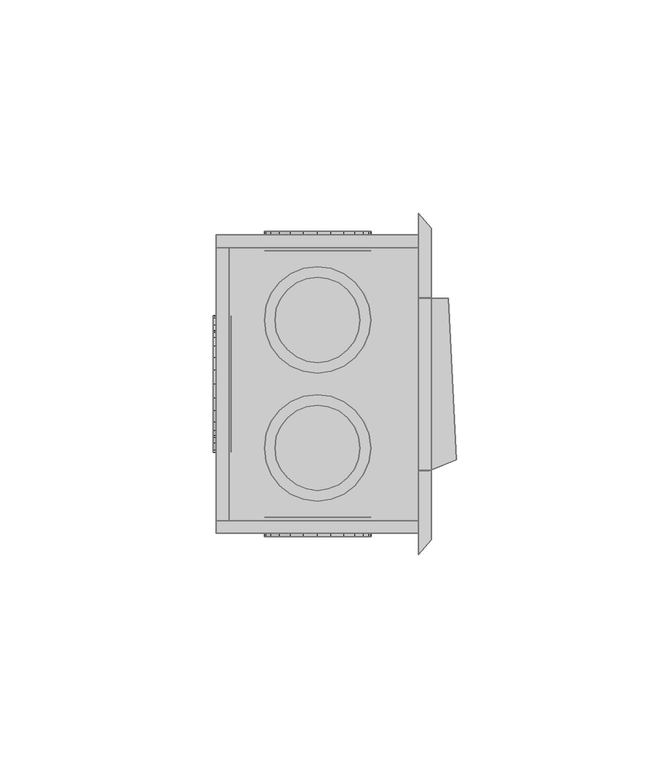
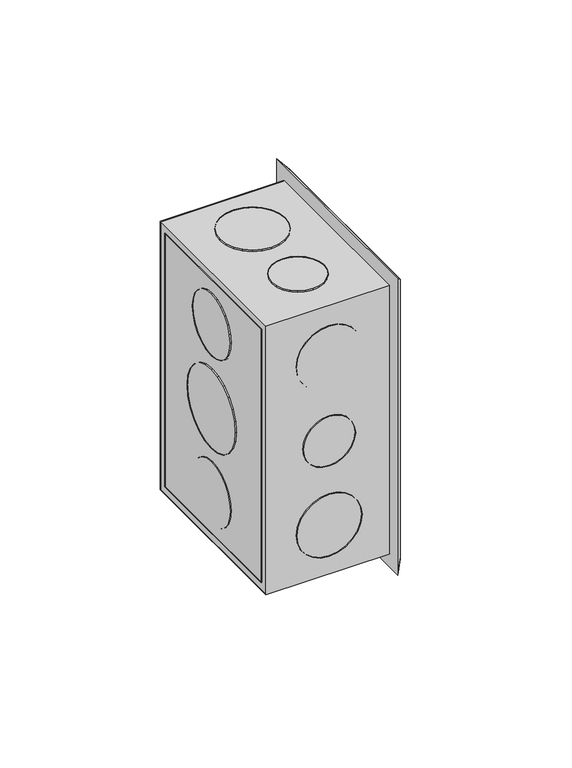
"""IFC4 building model written with IfcOpenShell, lengths in millimetres: proxy geometry,  210421 :  210421."""

from ifc_helpers import new_model, si_unit, origin, place, context, project, spatial, triangles, source, transform, mapped, element, save


def generic_models_ff952253(model_context):
    return source(origin(), model_context, "Body", "Tessellation", [
        triangles([(30653.4010437, 9867.0500519, 1254.3000378), (30653.4010437, 9864.050235, 1148.7000154), (30653.4010437, 9867.0500519, 1145.6999805), (30653.4010437, 9864.050235, 1251.2999302), (30653.4010437, 9797.0496735, 1254.3000378), (30653.4010437, 9800.0494904, 1251.2999302), (30653.4010437, 9797.0496735, 1145.6999805), (30653.4010437, 9800.0494904, 1148.7000154), (30605.899292, 9864.050235, 1251.2999302), (30605.899292, 9864.050235, 1148.7000154), (30605.899292, 9797.0496735, 1254.3000378), (30605.899292, 9797.0496735, 1145.6999805), (30605.899292, 9800.0494904, 1251.2999302), (30605.899292, 9867.0500519, 1145.6999805), (30605.899292, 9800.0494904, 1148.7000154), (30605.899292, 9867.0500519, 1254.3000378), (30608.8991089, 9864.050235, 1251.2999302), (30608.8991089, 9800.0494904, 1148.7000154), (30608.8991089, 9864.050235, 1148.7000154), (30608.8991089, 9800.0494904, 1251.2999302), (30609.3990784, 9845.950177, 1191.9999887), (30609.3990784, 9840.0505371, 1186.0999855), (30609.3990784, 9843.3503357, 1188.6999722), (30609.3990784, 9847.5500793, 1195.8999687), (30609.3990784, 9836.2496063, 1184.5000105), (30609.3990784, 9848.0500488, 1200.0000092), (30609.3990784, 9832.0498627, 1183.9999683), (30609.3990784, 9847.5500793, 1204.0999769), (30609.3990784, 9827.9501129, 1184.5000105), (30609.3990784, 9845.950177, 1208.0000296), (30609.3990784, 9824.050351, 1186.0999855), (30609.3990784, 9843.3503357, 1211.2999735), (30609.3990784, 9820.7505524, 1188.6999722), (30609.3990784, 9840.0505371, 1213.9000328), (30609.3990784, 9818.2495422, 1191.9999887), (30609.3990784, 9836.2496063, 1215.5000078), (30609.3990784, 9816.6496399, 1195.8999687), (30609.3990784, 9832.0498627, 1215.9999773), (30609.3990784, 9816.0496765, 1200.0000092), (30609.3990784, 9827.9501129, 1215.5000078), (30609.3990784, 9816.6496399, 1204.0999769), (30609.3990784, 9824.050351, 1213.9000328), (30609.3990784, 9818.2495422, 1208.0000296), (30609.3990784, 9820.7505524, 1211.2999735), (30605.1993347, 9827.9501129, 1184.5000105), (30605.1993347, 9832.0498627, 1183.9999683), (30605.1993347, 9836.2496063, 1184.5000105), (30605.1993347, 9840.0505371, 1186.0999855), (30605.1993347, 9843.3503357, 1188.6999722), (30605.1993347, 9845.950177, 1191.9999887), (30605.1993347, 9847.5500793, 1195.8999687), (30605.1993347, 9848.0500488, 1200.0000092), (30605.1993347, 9847.5500793, 1204.0999769), (30605.1993347, 9845.950177, 1208.0000296), (30605.1993347, 9843.3503357, 1211.2999735), (30605.1993347, 9840.0505371, 1213.9000328), (30605.1993347, 9836.2496063, 1215.5000078), (30605.1993347, 9832.0498627, 1215.9999773), (30605.1993347, 9827.9501129, 1215.5000078), (30605.1993347, 9824.050351, 1213.9000328), (30605.1993347, 9820.7505524, 1211.2999735), (30605.1993347, 9818.2495422, 1208.0000296), (30605.1993347, 9816.6496399, 1204.0999769), (30605.1993347, 9816.0496765, 1200.0000092), (30605.1993347, 9816.6496399, 1195.8999687), (30605.1993347, 9818.2495422, 1191.9999887), (30605.1993347, 9820.7505524, 1188.6999722), (30605.1993347, 9824.050351, 1186.0999855), (30609.3990784, 9842.9503601, 1227.8000565), (30609.3990784, 9838.3494781, 1223.2000465), (30609.3990784, 9840.9504822, 1225.2000698), (30609.3990784, 9844.1502869, 1230.8000187), (30609.3990784, 9835.3496613, 1221.8999805), (30609.3990784, 9844.5502625, 1233.9999687), (30609.3990784, 9832.0498627, 1221.500005), (30609.3990784, 9844.1502869, 1237.2000641), (30609.3990784, 9828.850058, 1221.8999805), (30609.3990784, 9842.9503601, 1240.3000202), (30609.3990784, 9825.8502411, 1223.2000465), (30609.3990784, 9840.9504822, 1242.800013), (30609.3990784, 9823.2503998, 1225.2000698), (30609.3990784, 9821.2505219, 1227.8000565), (30609.3990784, 9838.3494781, 1244.8000362), (30609.3990784, 9835.3496613, 1246.0999569), (30609.3990784, 9820.0494324, 1230.8000187), (30609.3990784, 9832.0498627, 1246.4999325), (30609.3990784, 9819.5494629, 1233.9999687), (30609.3990784, 9828.850058, 1246.0999569), (30609.3990784, 9820.0494324, 1237.2000641), (30609.3990784, 9821.2505219, 1240.3000202), (30609.3990784, 9825.8502411, 1244.8000362), (30609.3990784, 9823.2503998, 1242.800013), (30605.1993347, 9820.0494324, 1230.8000187), (30605.1993347, 9821.2505219, 1227.8000565), (30605.1993347, 9823.2503998, 1225.2000698), (30605.1993347, 9825.8502411, 1223.2000465), (30605.1993347, 9828.850058, 1221.8999805), (30605.1993347, 9832.0498627, 1221.500005), (30605.1993347, 9835.3496613, 1221.8999805), (30605.1993347, 9838.3494781, 1223.2000465), (30605.1993347, 9840.9504822, 1225.2000698), (30605.1993347, 9842.9503601, 1227.8000565), (30605.1993347, 9844.1502869, 1230.8000187), (30605.1993347, 9844.5502625, 1233.9999687), (30605.1993347, 9844.1502869, 1237.2000641), (30605.1993347, 9842.9503601, 1240.3000202), (30605.1993347, 9840.9504822, 1242.800013), (30605.1993347, 9838.3494781, 1244.8000362), (30605.1993347, 9835.3496613, 1246.0999569), (30605.1993347, 9832.0498627, 1246.4999325), (30605.1993347, 9828.850058, 1246.0999569), (30605.1993347, 9825.8502411, 1244.8000362), (30605.1993347, 9823.2503998, 1242.800013), (30605.1993347, 9821.2505219, 1240.3000202), (30605.1993347, 9820.0494324, 1237.2000641), (30605.1993347, 9819.5494629, 1233.9999687), (30605.1993347, 9838.3494781, 1155.1999821), (30605.1993347, 9842.9503601, 1159.6999981), (30605.1993347, 9840.9504822, 1157.2000053), (30605.1993347, 9835.3496613, 1153.8999887), (30605.1993347, 9844.1502869, 1162.8000269), (30605.1993347, 9832.0498627, 1153.5000132), (30605.1993347, 9844.5502625, 1165.9999769), (30605.1993347, 9828.850058, 1153.8999887), (30605.1993347, 9844.1502869, 1169.1999996), (30605.1993347, 9825.8502411, 1155.1999821), (30605.1993347, 9842.9503601, 1172.2000345), (30605.1993347, 9823.2503998, 1157.2000053), (30605.1993347, 9840.9504822, 1174.8000212), (30605.1993347, 9821.2505219, 1159.6999981), (30605.1993347, 9838.3494781, 1176.7999718), (30605.1993347, 9820.0494324, 1162.8000269), (30605.1993347, 9835.3496613, 1178.0999651), (30605.1993347, 9832.0498627, 1178.5000134), (30605.1993347, 9819.5494629, 1165.9999769), (30605.1993347, 9820.0494324, 1169.1999996), (30605.1993347, 9828.850058, 1178.0999651), (30605.1993347, 9821.2505219, 1172.2000345), (30605.1993347, 9825.8502411, 1176.7999718), (30605.1993347, 9823.2503998, 1174.8000212), (30609.3990784, 9835.3496613, 1178.0999651), (30609.3990784, 9832.0498627, 1178.5000134), (30609.3990784, 9838.3494781, 1176.7999718), (30609.3990784, 9840.9504822, 1174.8000212), (30609.3990784, 9842.9503601, 1172.2000345), (30609.3990784, 9844.1502869, 1169.1999996), (30609.3990784, 9844.5502625, 1165.9999769), (30609.3990784, 9844.1502869, 1162.8000269), (30609.3990784, 9842.9503601, 1159.6999981), (30609.3990784, 9840.9504822, 1157.2000053), (30609.3990784, 9838.3494781, 1155.1999821), (30609.3990784, 9835.3496613, 1153.8999887), (30609.3990784, 9832.0498627, 1153.5000132), (30609.3990784, 9828.850058, 1153.8999887), (30609.3990784, 9825.8502411, 1155.1999821), (30609.3990784, 9823.2503998, 1157.2000053), (30609.3990784, 9821.2505219, 1159.6999981), (30609.3990784, 9820.0494324, 1162.8000269), (30609.3990784, 9819.5494629, 1165.9999769), (30609.3990784, 9820.0494324, 1169.1999996), (30609.3990784, 9821.2505219, 1172.2000345), (30609.3990784, 9823.2503998, 1174.8000212), (30609.3990784, 9825.8502411, 1176.7999718), (30609.3990784, 9828.850058, 1178.0999651), (30624.70047, 9863.2502838, 1191.3000315), (30621.0006958, 9863.2502838, 1195.0000237), (30622.6005981, 9863.2502838, 1192.9000065), (30620.0007568, 9863.2502838, 1197.4000225), (30627.1003235, 9863.2502838, 1190.3000198), (30619.7007751, 9863.2502838, 1200.0000092), (30629.7001648, 9863.2502838, 1189.9999655), (30632.2000122, 9863.2502838, 1190.3000198), (30620.0007568, 9863.2502838, 1202.5999958), (30621.0006958, 9863.2502838, 1204.9999947), (30634.6998596, 9863.2502838, 1191.3000315), (30622.6005981, 9863.2502838, 1207.1000118), (30636.6997375, 9863.2502838, 1192.9000065), (30638.2996399, 9863.2502838, 1195.0000237), (30624.70047, 9863.2502838, 1208.6999868), (30639.2995789, 9863.2502838, 1197.4000225), (30627.1003235, 9863.2502838, 1209.6999985), (30639.6995544, 9863.2502838, 1200.0000092), (30629.7001648, 9863.2502838, 1209.9999802), (30639.2995789, 9863.2502838, 1202.5999958), (30632.2000122, 9863.2502838, 1209.6999985), (30634.6998596, 9863.2502838, 1208.6999868), (30638.2996399, 9863.2502838, 1204.9999947), (30636.6997375, 9863.2502838, 1207.1000118), (30629.7001648, 9867.8500031, 1189.9999655), (30627.1003235, 9867.8500031, 1190.3000198), (30632.2000122, 9867.8500031, 1190.3000198), (30634.6998596, 9867.8500031, 1191.3000315), (30636.6997375, 9867.8500031, 1192.9000065), (30638.2996399, 9867.8500031, 1195.0000237), (30639.2995789, 9867.8500031, 1197.4000225), (30639.6995544, 9867.8500031, 1200.0000092), (30639.2995789, 9867.8500031, 1202.5999958), (30638.2996399, 9867.8500031, 1204.9999947), (30636.6997375, 9867.8500031, 1207.1000118), (30634.6998596, 9867.8500031, 1208.6999868), (30632.2000122, 9867.8500031, 1209.6999985), (30629.7001648, 9867.8500031, 1209.9999802), (30627.1003235, 9867.8500031, 1209.6999985), (30624.70047, 9867.8500031, 1208.6999868), (30622.6005981, 9867.8500031, 1207.1000118), (30621.0006958, 9867.8500031, 1204.9999947), (30620.0007568, 9867.8500031, 1202.5999958), (30619.7007751, 9867.8500031, 1200.0000092), (30620.0007568, 9867.8500031, 1197.4000225), (30621.0006958, 9867.8500031, 1195.0000237), (30622.6005981, 9867.8500031, 1192.9000065), (30624.70047, 9867.8500031, 1191.3000315), (30623.4005493, 9863.2502838, 1223.2000465), (30618.8008301, 9863.2502838, 1227.8000565), (30620.800708, 9863.2502838, 1225.2000698), (30626.4003662, 9863.2502838, 1221.8999805), (30617.6009033, 9863.2502838, 1230.8000187), (30617.2009277, 9863.2502838, 1233.9999687), (30629.7001648, 9863.2502838, 1221.500005), (30632.8999695, 9863.2502838, 1221.8999805), (30617.6009033, 9863.2502838, 1237.2000641), (30618.8008301, 9863.2502838, 1240.3000202), (30635.8997864, 9863.2502838, 1223.2000465), (30638.4996277, 9863.2502838, 1225.2000698), (30620.800708, 9863.2502838, 1242.800013), (30640.4995056, 9863.2502838, 1227.8000565), (30623.4005493, 9863.2502838, 1244.8000362), (30641.6994324, 9863.2502838, 1230.8000187), (30626.4003662, 9863.2502838, 1246.0999569), (30642.1994019, 9863.2502838, 1233.9999687), (30629.7001648, 9863.2502838, 1246.4999325), (30641.6994324, 9863.2502838, 1237.2000641), (30632.8999695, 9863.2502838, 1246.0999569), (30640.4995056, 9863.2502838, 1240.3000202), (30635.8997864, 9863.2502838, 1244.8000362), (30638.4996277, 9863.2502838, 1242.800013), (30629.7001648, 9867.8500031, 1221.500005), (30626.4003662, 9867.8500031, 1221.8999805), (30632.8999695, 9867.8500031, 1221.8999805), (30635.8997864, 9867.8500031, 1223.2000465), (30638.4996277, 9867.8500031, 1225.2000698), (30640.4995056, 9867.8500031, 1227.8000565), (30641.6994324, 9867.8500031, 1230.8000187), (30642.1994019, 9867.8500031, 1233.9999687), (30641.6994324, 9867.8500031, 1237.2000641), (30640.4995056, 9867.8500031, 1240.3000202), (30638.4996277, 9867.8500031, 1242.800013), (30635.8997864, 9867.8500031, 1244.8000362), (30632.8999695, 9867.8500031, 1246.0999569), (30629.7001648, 9867.8500031, 1246.4999325), (30626.4003662, 9867.8500031, 1246.0999569), (30623.4005493, 9867.8500031, 1244.8000362), (30620.800708, 9867.8500031, 1242.800013), (30618.8008301, 9867.8500031, 1240.3000202), (30617.6009033, 9867.8500031, 1237.2000641), (30617.2009277, 9867.8500031, 1233.9999687), (30617.6009033, 9867.8500031, 1230.8000187), (30618.8008301, 9867.8500031, 1227.8000565), (30620.800708, 9867.8500031, 1225.2000698), (30623.4005493, 9867.8500031, 1223.2000465), (30618.8008301, 9867.8500031, 1159.6999981), (30623.4005493, 9867.8500031, 1155.1999821), (30620.800708, 9867.8500031, 1157.2000053), (30617.6009033, 9867.8500031, 1162.8000269), (30626.4003662, 9867.8500031, 1153.8999887), (30617.2009277, 9867.8500031, 1165.9999769), (30629.7001648, 9867.8500031, 1153.5000132), (30617.6009033, 9867.8500031, 1169.1999996), (30632.8999695, 9867.8500031, 1153.8999887), (30618.8008301, 9867.8500031, 1172.2000345), (30635.8997864, 9867.8500031, 1155.1999821), (30620.800708, 9867.8500031, 1174.8000212), (30638.4996277, 9867.8500031, 1157.2000053), (30623.4005493, 9867.8500031, 1176.7999718), (30640.4995056, 9867.8500031, 1159.6999981), (30626.4003662, 9867.8500031, 1178.0999651), (30641.6994324, 9867.8500031, 1162.8000269), (30629.7001648, 9867.8500031, 1178.5000134), (30642.1994019, 9867.8500031, 1165.9999769), (30632.8999695, 9867.8500031, 1178.0999651), (30641.6994324, 9867.8500031, 1169.1999996), (30635.8997864, 9867.8500031, 1176.7999718), (30640.4995056, 9867.8500031, 1172.2000345), (30638.4996277, 9867.8500031, 1174.8000212), (30626.4003662, 9863.2502838, 1178.0999651), (30629.7001648, 9863.2502838, 1178.5000134), (30632.8999695, 9863.2502838, 1178.0999651), (30635.8997864, 9863.2502838, 1176.7999718), (30638.4996277, 9863.2502838, 1174.8000212), (30640.4995056, 9863.2502838, 1172.2000345), (30641.6994324, 9863.2502838, 1169.1999996), (30642.1994019, 9863.2502838, 1165.9999769), (30641.6994324, 9863.2502838, 1162.8000269), (30640.4995056, 9863.2502838, 1159.6999981), (30638.4996277, 9863.2502838, 1157.2000053), (30635.8997864, 9863.2502838, 1155.1999821), (30632.8999695, 9863.2502838, 1153.8999887), (30629.7001648, 9863.2502838, 1153.5000132), (30626.4003662, 9863.2502838, 1153.8999887), (30623.4005493, 9863.2502838, 1155.1999821), (30620.800708, 9863.2502838, 1157.2000053), (30618.8008301, 9863.2502838, 1159.6999981), (30617.6009033, 9863.2502838, 1162.8000269), (30617.2009277, 9863.2502838, 1165.9999769), (30617.6009033, 9863.2502838, 1169.1999996), (30618.8008301, 9863.2502838, 1172.2000345), (30620.800708, 9863.2502838, 1174.8000212), (30623.4005493, 9863.2502838, 1176.7999718), (30621.0006958, 9800.8494415, 1195.0000237), (30624.70047, 9800.8494415, 1191.3000315), (30622.6005981, 9800.8494415, 1192.9000065), (30620.0007568, 9800.8494415, 1197.4000225), (30627.1003235, 9800.8494415, 1190.3000198), (30619.7007751, 9800.8494415, 1200.0000092), (30629.7001648, 9800.8494415, 1189.9999655), (30620.0007568, 9800.8494415, 1202.5999958), (30632.2000122, 9800.8494415, 1190.3000198), (30621.0006958, 9800.8494415, 1204.9999947), (30634.6998596, 9800.8494415, 1191.3000315), (30622.6005981, 9800.8494415, 1207.1000118), (30636.6997375, 9800.8494415, 1192.9000065), (30624.70047, 9800.8494415, 1208.6999868), (30638.2996399, 9800.8494415, 1195.0000237), (30627.1003235, 9800.8494415, 1209.6999985), (30639.2995789, 9800.8494415, 1197.4000225), (30639.6995544, 9800.8494415, 1200.0000092), (30629.7001648, 9800.8494415, 1209.9999802), (30632.2000122, 9800.8494415, 1209.6999985), (30639.2995789, 9800.8494415, 1202.5999958), (30634.6998596, 9800.8494415, 1208.6999868), (30638.2996399, 9800.8494415, 1204.9999947), (30636.6997375, 9800.8494415, 1207.1000118), (30627.1003235, 9796.2497223, 1209.6999985), (30629.7001648, 9796.2497223, 1209.9999802), (30632.2000122, 9796.2497223, 1209.6999985), (30634.6998596, 9796.2497223, 1208.6999868), (30636.6997375, 9796.2497223, 1207.1000118), (30638.2996399, 9796.2497223, 1204.9999947), (30639.2995789, 9796.2497223, 1202.5999958), (30639.6995544, 9796.2497223, 1200.0000092), (30639.2995789, 9796.2497223, 1197.4000225), (30638.2996399, 9796.2497223, 1195.0000237), (30636.6997375, 9796.2497223, 1192.9000065), (30634.6998596, 9796.2497223, 1191.3000315), (30632.2000122, 9796.2497223, 1190.3000198), (30629.7001648, 9796.2497223, 1189.9999655), (30627.1003235, 9796.2497223, 1190.3000198), (30624.70047, 9796.2497223, 1191.3000315), (30622.6005981, 9796.2497223, 1192.9000065), (30621.0006958, 9796.2497223, 1195.0000237), (30620.0007568, 9796.2497223, 1197.4000225), (30619.7007751, 9796.2497223, 1200.0000092), (30620.0007568, 9796.2497223, 1202.5999958), (30621.0006958, 9796.2497223, 1204.9999947), (30622.6005981, 9796.2497223, 1207.1000118), (30624.70047, 9796.2497223, 1208.6999868), (30618.8008301, 9800.8494415, 1159.6999981), (30623.4005493, 9800.8494415, 1155.1999821), (30620.800708, 9800.8494415, 1157.2000053), (30617.6009033, 9800.8494415, 1162.8000269), (30626.4003662, 9800.8494415, 1153.8999887), (30617.2009277, 9800.8494415, 1165.9999769), (30629.7001648, 9800.8494415, 1153.5000132), (30617.6009033, 9800.8494415, 1169.1999996), (30632.8999695, 9800.8494415, 1153.8999887), (30618.8008301, 9800.8494415, 1172.2000345), (30635.8997864, 9800.8494415, 1155.1999821), (30620.800708, 9800.8494415, 1174.8000212), (30638.4996277, 9800.8494415, 1157.2000053), (30623.4005493, 9800.8494415, 1176.7999718), (30640.4995056, 9800.8494415, 1159.6999981), (30626.4003662, 9800.8494415, 1178.0999651), (30641.6994324, 9800.8494415, 1162.8000269), (30629.7001648, 9800.8494415, 1178.5000134), (30642.1994019, 9800.8494415, 1165.9999769), (30632.8999695, 9800.8494415, 1178.0999651), (30641.6994324, 9800.8494415, 1169.1999996), (30635.8997864, 9800.8494415, 1176.7999718), (30640.4995056, 9800.8494415, 1172.2000345), (30638.4996277, 9800.8494415, 1174.8000212), (30626.4003662, 9796.2497223, 1178.0999651), (30629.7001648, 9796.2497223, 1178.5000134), (30632.8999695, 9796.2497223, 1178.0999651), (30635.8997864, 9796.2497223, 1176.7999718), (30638.4996277, 9796.2497223, 1174.8000212), (30640.4995056, 9796.2497223, 1172.2000345), (30641.6994324, 9796.2497223, 1169.1999996), (30642.1994019, 9796.2497223, 1165.9999769), (30641.6994324, 9796.2497223, 1162.8000269), (30640.4995056, 9796.2497223, 1159.6999981), (30638.4996277, 9796.2497223, 1157.2000053), (30635.8997864, 9796.2497223, 1155.1999821), (30632.8999695, 9796.2497223, 1153.8999887), (30629.7001648, 9796.2497223, 1153.5000132), (30626.4003662, 9796.2497223, 1153.8999887), (30623.4005493, 9796.2497223, 1155.1999821), (30620.800708, 9796.2497223, 1157.2000053), (30618.8008301, 9796.2497223, 1159.6999981), (30617.6009033, 9796.2497223, 1162.8000269), (30617.2009277, 9796.2497223, 1165.9999769), (30617.6009033, 9796.2497223, 1169.1999996), (30618.8008301, 9796.2497223, 1172.2000345), (30620.800708, 9796.2497223, 1174.8000212), (30623.4005493, 9796.2497223, 1176.7999718), (30623.4005493, 9796.2497223, 1223.2000465), (30618.8008301, 9796.2497223, 1227.8000565), (30620.800708, 9796.2497223, 1225.2000698), (30626.4003662, 9796.2497223, 1221.8999805), (30617.6009033, 9796.2497223, 1230.8000187), (30617.2009277, 9796.2497223, 1233.9999687), (30629.7001648, 9796.2497223, 1221.500005), (30632.8999695, 9796.2497223, 1221.8999805), (30617.6009033, 9796.2497223, 1237.2000641), (30618.8008301, 9796.2497223, 1240.3000202), (30635.8997864, 9796.2497223, 1223.2000465), (30638.4996277, 9796.2497223, 1225.2000698), (30620.800708, 9796.2497223, 1242.800013), (30640.4995056, 9796.2497223, 1227.8000565), (30623.4005493, 9796.2497223, 1244.8000362), (30641.6994324, 9796.2497223, 1230.8000187), (30626.4003662, 9796.2497223, 1246.0999569), (30642.1994019, 9796.2497223, 1233.9999687), (30629.7001648, 9796.2497223, 1246.4999325), (30641.6994324, 9796.2497223, 1237.2000641), (30632.8999695, 9796.2497223, 1246.0999569), (30640.4995056, 9796.2497223, 1240.3000202), (30635.8997864, 9796.2497223, 1244.8000362), (30638.4996277, 9796.2497223, 1242.800013), (30629.7001648, 9800.8494415, 1221.500005), (30626.4003662, 9800.8494415, 1221.8999805), (30632.8999695, 9800.8494415, 1221.8999805), (30635.8997864, 9800.8494415, 1223.2000465), (30638.4996277, 9800.8494415, 1225.2000698), (30640.4995056, 9800.8494415, 1227.8000565), (30641.6994324, 9800.8494415, 1230.8000187), (30642.1994019, 9800.8494415, 1233.9999687), (30641.6994324, 9800.8494415, 1237.2000641), (30640.4995056, 9800.8494415, 1240.3000202), (30638.4996277, 9800.8494415, 1242.800013), (30635.8997864, 9800.8494415, 1244.8000362), (30632.8999695, 9800.8494415, 1246.0999569), (30629.7001648, 9800.8494415, 1246.4999325), (30626.4003662, 9800.8494415, 1246.0999569), (30623.4005493, 9800.8494415, 1244.8000362), (30620.800708, 9800.8494415, 1242.800013), (30618.8008301, 9800.8494415, 1240.3000202), (30617.6009033, 9800.8494415, 1237.2000641), (30617.2009277, 9800.8494415, 1233.9999687), (30617.6009033, 9800.8494415, 1230.8000187), (30618.8008301, 9800.8494415, 1227.8000565), (30620.800708, 9800.8494415, 1225.2000698), (30623.4005493, 9800.8494415, 1223.2000465), (30623.4005493, 9857.9494446, 1250.9999485), (30618.8008301, 9853.3497253, 1250.9999485), (30620.800708, 9855.9495667, 1250.9999485), (30626.4003662, 9859.1505341, 1250.9999485), (30617.6009033, 9850.3499084, 1250.9999485), (30617.2009277, 9847.0501099, 1250.9999485), (30629.7001648, 9859.5505096, 1250.9999485), (30632.8999695, 9859.1505341, 1250.9999485), (30617.6009033, 9843.8503052, 1250.9999485), (30618.8008301, 9840.8504883, 1250.9999485), (30635.8997864, 9857.9494446, 1250.9999485), (30638.4996277, 9855.9495667, 1250.9999485), (30620.800708, 9838.2494843, 1250.9999485), (30623.4005493, 9836.2496063, 1250.9999485), (30640.4995056, 9853.3497253, 1250.9999485), (30641.6994324, 9850.3499084, 1250.9999485), (30626.4003662, 9835.0496796, 1250.9999485), (30642.1994019, 9847.0501099, 1250.9999485), (30629.7001648, 9834.5497101, 1250.9999485), (30641.6994324, 9843.8503052, 1250.9999485), (30632.8999695, 9835.0496796, 1250.9999485), (30635.8997864, 9836.2496063, 1250.9999485), (30640.4995056, 9840.8504883, 1250.9999485), (30638.4996277, 9838.2494843, 1250.9999485), (30617.2009277, 9847.0501099, 1255.1999828), (30617.6009033, 9843.8503052, 1255.1999828), (30617.6009033, 9850.3499084, 1255.1999828), (30618.8008301, 9853.3497253, 1255.1999828), (30620.800708, 9855.9495667, 1255.1999828), (30623.4005493, 9857.9494446, 1255.1999828), (30626.4003662, 9859.1505341, 1255.1999828), (30629.7001648, 9859.5505096, 1255.1999828), (30632.8999695, 9859.1505341, 1255.1999828), (30635.8997864, 9857.9494446, 1255.1999828), (30638.4996277, 9855.9495667, 1255.1999828), (30640.4995056, 9853.3497253, 1255.1999828), (30641.6994324, 9850.3499084, 1255.1999828), (30642.1994019, 9847.0501099, 1255.1999828), (30641.6994324, 9843.8503052, 1255.1999828), (30640.4995056, 9840.8504883, 1255.1999828), (30638.4996277, 9838.2494843, 1255.1999828), (30635.8997864, 9836.2496063, 1255.1999828), (30632.8999695, 9835.0496796, 1255.1999828), (30629.7001648, 9834.5497101, 1255.1999828), (30626.4003662, 9835.0496796, 1255.1999828), (30623.4005493, 9836.2496063, 1255.1999828), (30620.800708, 9838.2494843, 1255.1999828), (30618.8008301, 9840.8504883, 1255.1999828), (30624.70047, 9825.7502472, 1250.9999485), (30621.0006958, 9822.050473, 1250.9999485), (30622.6005981, 9824.1503448, 1250.9999485), (30620.0007568, 9819.6494568, 1250.9999485), (30627.1003235, 9826.7501862, 1250.9999485), (30619.7007751, 9817.0496155, 1250.9999485), (30629.7001648, 9827.0501678, 1250.9999485), (30632.2000122, 9826.7501862, 1250.9999485), (30620.0007568, 9814.4497742, 1250.9999485), (30621.0006958, 9812.0499207, 1250.9999485), (30634.6998596, 9825.7502472, 1250.9999485), (30622.6005981, 9810.0500427, 1250.9999485), (30636.6997375, 9824.1503448, 1250.9999485), (30638.2996399, 9822.050473, 1250.9999485), (30624.70047, 9808.4501404, 1250.9999485), (30627.1003235, 9807.4502014, 1250.9999485), (30639.2995789, 9819.6494568, 1250.9999485), (30639.6995544, 9817.0496155, 1250.9999485), (30629.7001648, 9807.0502258, 1250.9999485), (30639.2995789, 9814.4497742, 1250.9999485), (30632.2000122, 9807.4502014, 1250.9999485), (30638.2996399, 9812.0499207, 1250.9999485), (30634.6998596, 9808.4501404, 1250.9999485), (30636.6997375, 9810.0500427, 1250.9999485), (30620.0007568, 9814.4497742, 1255.1999828), (30621.0006958, 9812.0499207, 1255.1999828), (30619.7007751, 9817.0496155, 1255.1999828), (30620.0007568, 9819.6494568, 1255.1999828), (30621.0006958, 9822.050473, 1255.1999828), (30622.6005981, 9824.1503448, 1255.1999828), (30624.70047, 9825.7502472, 1255.1999828), (30627.1003235, 9826.7501862, 1255.1999828), (30629.7001648, 9827.0501678, 1255.1999828), (30632.2000122, 9826.7501862, 1255.1999828), (30634.6998596, 9825.7502472, 1255.1999828), (30636.6997375, 9824.1503448, 1255.1999828), (30638.2996399, 9822.050473, 1255.1999828), (30639.2995789, 9819.6494568, 1255.1999828), (30639.6995544, 9817.0496155, 1255.1999828), (30639.2995789, 9814.4497742, 1255.1999828), (30638.2996399, 9812.0499207, 1255.1999828), (30636.6997375, 9810.0500427, 1255.1999828), (30634.6998596, 9808.4501404, 1255.1999828), (30632.2000122, 9807.4502014, 1255.1999828), (30629.7001648, 9807.0502258, 1255.1999828), (30627.1003235, 9807.4502014, 1255.1999828), (30624.70047, 9808.4501404, 1255.1999828), (30622.6005981, 9810.0500427, 1255.1999828), (30624.70047, 9855.7495789, 1144.8000355), (30621.0006958, 9852.0498047, 1144.8000355), (30622.6005981, 9854.1496765, 1144.8000355), (30620.0007568, 9849.6499512, 1144.8000355), (30627.1003235, 9856.7495178, 1144.8000355), (30619.7007751, 9847.0501099, 1144.8000355), (30629.7001648, 9857.0494995, 1144.8000355), (30632.2000122, 9856.7495178, 1144.8000355), (30620.0007568, 9844.4502686, 1144.8000355), (30621.0006958, 9842.050415, 1144.8000355), (30634.6998596, 9855.7495789, 1144.8000355), (30622.6005981, 9840.0505371, 1144.8000355), (30636.6997375, 9854.1496765, 1144.8000355), (30638.2996399, 9852.0498047, 1144.8000355), (30624.70047, 9838.449472, 1144.8000355), (30627.1003235, 9837.4495331, 1144.8000355), (30639.2995789, 9849.6499512, 1144.8000355), (30639.6995544, 9847.0501099, 1144.8000355), (30629.7001648, 9837.0495575, 1144.8000355), (30639.2995789, 9844.4502686, 1144.8000355), (30632.2000122, 9837.4495331, 1144.8000355), (30638.2996399, 9842.050415, 1144.8000355), (30634.6998596, 9838.449472, 1144.8000355), (30636.6997375, 9840.0505371, 1144.8000355), (30620.0007568, 9849.6499512, 1149.099991), (30619.7007751, 9847.0501099, 1149.099991), (30621.0006958, 9852.0498047, 1149.099991), (30622.6005981, 9854.1496765, 1149.099991), (30624.70047, 9855.7495789, 1149.099991), (30627.1003235, 9856.7495178, 1149.099991), (30629.7001648, 9857.0494995, 1149.099991), (30632.2000122, 9856.7495178, 1149.099991), (30634.6998596, 9855.7495789, 1149.099991), (30636.6997375, 9854.1496765, 1149.099991), (30638.2996399, 9852.0498047, 1149.099991), (30639.2995789, 9849.6499512, 1149.099991), (30639.6995544, 9847.0501099, 1149.099991), (30639.2995789, 9844.4502686, 1149.099991), (30638.2996399, 9842.050415, 1149.099991), (30636.6997375, 9840.0505371, 1149.099991), (30634.6998596, 9838.449472, 1149.099991), (30632.2000122, 9837.4495331, 1149.099991), (30629.7001648, 9837.0495575, 1149.099991), (30627.1003235, 9837.4495331, 1149.099991), (30624.70047, 9838.449472, 1149.099991), (30622.6005981, 9840.0505371, 1149.099991), (30621.0006958, 9842.050415, 1149.099991), (30620.0007568, 9844.4502686, 1149.099991), (30623.4005493, 9827.9501129, 1144.8000355), (30618.8008301, 9823.3503937, 1144.8000355), (30620.800708, 9825.950235, 1144.8000355), (30626.4003662, 9829.1500397, 1144.8000355), (30617.6009033, 9820.3505768, 1144.8000355), (30617.2009277, 9817.0496155, 1144.8000355), (30629.7001648, 9829.5500153, 1144.8000355), (30632.8999695, 9829.1500397, 1144.8000355), (30617.6009033, 9813.8498108, 1144.8000355), (30618.8008301, 9810.8499939, 1144.8000355), (30635.8997864, 9827.9501129, 1144.8000355), (30638.4996277, 9825.950235, 1144.8000355), (30620.800708, 9808.2501526, 1144.8000355), (30623.4005493, 9806.2502747, 1144.8000355), (30640.4995056, 9823.3503937, 1144.8000355), (30641.6994324, 9820.3505768, 1144.8000355), (30626.4003662, 9805.0503479, 1144.8000355), (30642.1994019, 9817.0496155, 1144.8000355), (30629.7001648, 9804.5503784, 1144.8000355), (30641.6994324, 9813.8498108, 1144.8000355), (30632.8999695, 9805.0503479, 1144.8000355), (30635.8997864, 9806.2502747, 1144.8000355), (30640.4995056, 9810.8499939, 1144.8000355), (30638.4996277, 9808.2501526, 1144.8000355), (30617.6009033, 9813.8498108, 1149.099991), (30618.8008301, 9810.8499939, 1149.099991), (30617.2009277, 9817.0496155, 1149.099991), (30617.6009033, 9820.3505768, 1149.099991), (30618.8008301, 9823.3503937, 1149.099991), (30620.800708, 9825.950235, 1149.099991), (30623.4005493, 9827.9501129, 1149.099991), (30626.4003662, 9829.1500397, 1149.099991), (30629.7001648, 9829.5500153, 1149.099991), (30632.8999695, 9829.1500397, 1149.099991), (30635.8997864, 9827.9501129, 1149.099991), (30638.4996277, 9825.950235, 1149.099991), (30640.4995056, 9823.3503937, 1149.099991), (30641.6994324, 9820.3505768, 1149.099991), (30642.1994019, 9817.0496155, 1149.099991), (30641.6994324, 9813.8498108, 1149.099991), (30640.4995056, 9810.8499939, 1149.099991), (30638.4996277, 9808.2501526, 1149.099991), (30635.8997864, 9806.2502747, 1149.099991), (30632.8999695, 9805.0503479, 1149.099991), (30629.7001648, 9804.5503784, 1149.099991), (30626.4003662, 9805.0503479, 1149.099991), (30623.4005493, 9806.2502747, 1149.099991), (30620.800708, 9808.2501526, 1149.099991), (30653.4010437, 9792.0499786, 1139.9999651), (30653.4010437, 9852.2497925, 1188.2999966), (30653.4010437, 9872.0497467, 1139.9999651), (30653.4010437, 9811.8499329, 1188.2999966), (30653.4010437, 9792.0499786, 1259.9999805), (30653.4010437, 9811.8499329, 1211.7000217), (30653.4010437, 9872.0497467, 1259.9999805), (30653.4010437, 9852.2497925, 1211.7000217), (30656.4008606, 9811.8499329, 1188.2999966), (30656.4008606, 9811.8499329, 1211.7000217), (30656.4008606, 9852.2497925, 1188.2999966), (30656.4008606, 9852.2497925, 1211.7000217), (30656.4008606, 9868.5499603, 1143.4999695), (30656.4008606, 9868.5499603, 1256.5000488), (30656.4008606, 9795.549765, 1143.4999695), (30656.4008606, 9795.549765, 1256.5000488), (30660.4006165, 9852.1497986, 1188.1000088), (30653.4010437, 9811.749939, 1188.1000088), (30653.4010437, 9852.1497986, 1188.1000088), (30662.3005005, 9814.3497803, 1188.1000088), (30655.9008911, 9811.749939, 1188.1000088), (30653.4010437, 9852.1497986, 1211.500034), (30653.4010437, 9811.749939, 1211.500034), (30660.4006165, 9852.1497986, 1211.500034), (30662.3005005, 9814.3497803, 1211.500034), (30655.9008911, 9811.749939, 1211.500034)], [[1, 2, 3], [2, 1, 4], [5, 4, 1], [4, 5, 6], [3, 2, 7], [7, 2, 8], [7, 8, 6], [7, 6, 5], [2, 9, 10], [9, 2, 4], [7, 11, 12], [11, 7, 5], [4, 13, 9], [13, 4, 6], [3, 12, 14], [12, 3, 7], [13, 8, 15], [8, 13, 6], [16, 3, 14], [3, 16, 1], [15, 2, 10], [2, 15, 8], [11, 1, 16], [1, 11, 5], [12, 10, 14], [10, 12, 15], [11, 15, 12], [15, 11, 13], [14, 10, 16], [16, 10, 9], [16, 9, 13], [16, 13, 11], [17, 18, 19], [18, 17, 20], [18, 13, 15], [13, 18, 20], [19, 15, 10], [15, 19, 18], [9, 19, 10], [19, 9, 17], [13, 17, 9], [17, 13, 20], [15, 9, 10], [9, 15, 13], [21, 22, 23], [22, 21, 24], [25, 22, 24], [25, 24, 26], [27, 25, 26], [27, 26, 28], [29, 27, 28], [29, 28, 30], [31, 29, 30], [31, 30, 32], [31, 32, 33], [33, 32, 34], [33, 34, 35], [35, 34, 36], [35, 36, 37], [37, 36, 38], [37, 38, 39], [39, 38, 40], [39, 40, 41], [41, 40, 42], [41, 42, 43], [43, 42, 44], [27, 45, 46], [45, 27, 29], [25, 46, 47], [46, 25, 27], [22, 47, 48], [47, 22, 25], [23, 48, 49], [48, 23, 22], [50, 23, 49], [23, 50, 21], [51, 21, 50], [21, 51, 24], [52, 24, 51], [24, 52, 26], [53, 26, 52], [26, 53, 28], [54, 28, 53], [28, 54, 30], [55, 30, 54], [30, 55, 32], [56, 32, 55], [32, 56, 34], [57, 34, 56], [34, 57, 36], [58, 36, 57], [36, 58, 38], [59, 38, 58], [38, 59, 40], [60, 40, 59], [40, 60, 42], [61, 42, 60], [42, 61, 44], [43, 61, 62], [61, 43, 44], [41, 62, 63], [62, 41, 43], [39, 63, 64], [63, 39, 41], [37, 64, 65], [64, 37, 39], [35, 65, 66], [65, 35, 37], [33, 66, 67], [66, 33, 35], [31, 67, 68], [67, 31, 33], [29, 68, 45], [68, 29, 31], [48, 50, 49], [50, 48, 47], [51, 50, 47], [51, 47, 46], [52, 51, 46], [52, 46, 45], [53, 52, 45], [53, 45, 68], [54, 53, 68], [54, 68, 67], [54, 67, 55], [55, 67, 66], [55, 66, 56], [56, 66, 65], [56, 65, 57], [57, 65, 64], [57, 64, 58], [58, 64, 63], [58, 63, 59], [59, 63, 62], [59, 62, 60], [60, 62, 61], [69, 70, 71], [70, 69, 72], [73, 70, 72], [73, 72, 74], [75, 73, 74], [75, 74, 76], [77, 75, 76], [77, 76, 78], [79, 77, 78], [79, 78, 80], [81, 79, 80], [81, 80, 82], [82, 80, 83], [82, 83, 84], [82, 84, 85], [85, 84, 86], [85, 86, 87], [87, 86, 88], [87, 88, 89], [89, 88, 90], [90, 88, 91], [90, 91, 92], [82, 93, 94], [93, 82, 85], [81, 94, 95], [94, 81, 82], [79, 95, 96], [95, 79, 81], [77, 96, 97], [96, 77, 79], [75, 97, 98], [97, 75, 77], [73, 98, 99], [98, 73, 75], [70, 99, 100], [99, 70, 73], [71, 100, 101], [100, 71, 70], [102, 71, 101], [71, 102, 69], [103, 69, 102], [69, 103, 72], [104, 72, 103], [72, 104, 74], [105, 74, 104], [74, 105, 76], [106, 76, 105], [76, 106, 78], [107, 78, 106], [78, 107, 80], [108, 80, 107], [80, 108, 83], [109, 83, 108], [83, 109, 84], [110, 84, 109], [84, 110, 86], [111, 86, 110], [86, 111, 88], [112, 88, 111], [88, 112, 91], [113, 91, 112], [91, 113, 92], [90, 113, 114], [113, 90, 92], [89, 114, 115], [114, 89, 90], [87, 115, 116], [115, 87, 89], [85, 116, 93], [116, 85, 87], [100, 102, 101], [102, 100, 99], [103, 102, 99], [103, 99, 98], [104, 103, 98], [104, 98, 97], [105, 104, 97], [106, 105, 97], [106, 97, 96], [106, 96, 95], [106, 95, 107], [107, 95, 94], [107, 94, 108], [108, 94, 93], [108, 93, 109], [109, 93, 116], [109, 116, 110], [110, 116, 115], [110, 115, 111], [111, 115, 114], [111, 114, 112], [112, 114, 113], [117, 118, 119], [118, 117, 120], [121, 118, 120], [121, 120, 122], [123, 121, 122], [123, 122, 124], [125, 123, 124], [125, 124, 126], [127, 125, 126], [127, 126, 128], [127, 128, 129], [129, 128, 130], [129, 130, 131], [131, 130, 132], [131, 132, 133], [133, 132, 134], [134, 132, 135], [134, 135, 136], [134, 136, 137], [137, 136, 138], [137, 138, 139], [139, 138, 140], [134, 141, 133], [141, 134, 142], [133, 143, 131], [143, 133, 141], [131, 144, 129], [144, 131, 143], [129, 145, 127], [145, 129, 144], [127, 146, 125], [146, 127, 145], [125, 147, 123], [147, 125, 146], [123, 148, 121], [148, 123, 147], [121, 149, 118], [149, 121, 148], [118, 150, 119], [150, 118, 149], [150, 117, 119], [117, 150, 151], [151, 120, 117], [120, 151, 152], [152, 122, 120], [122, 152, 153], [153, 124, 122], [124, 153, 154], [154, 126, 124], [126, 154, 155], [155, 128, 126], [128, 155, 156], [156, 130, 128], [130, 156, 157], [157, 132, 130], [132, 157, 158], [158, 135, 132], [135, 158, 159], [159, 136, 135], [136, 159, 160], [160, 138, 136], [138, 160, 161], [161, 140, 138], [140, 161, 162], [140, 163, 139], [163, 140, 162], [139, 164, 137], [164, 139, 163], [137, 142, 134], [142, 137, 164], [149, 151, 150], [151, 149, 148], [152, 151, 148], [153, 152, 148], [153, 148, 147], [153, 147, 146], [154, 153, 146], [154, 146, 145], [155, 154, 145], [155, 145, 144], [156, 155, 144], [156, 144, 157], [157, 144, 143], [157, 143, 141], [157, 141, 158], [158, 141, 142], [158, 142, 159], [159, 142, 164], [159, 164, 160], [160, 164, 163], [160, 163, 161], [161, 163, 162], [165, 166, 167], [168, 166, 165], [168, 165, 169], [170, 168, 169], [170, 169, 171], [170, 171, 172], [173, 170, 172], [174, 173, 172], [174, 172, 175], [176, 174, 175], [176, 175, 177], [176, 177, 178], [176, 178, 179], [179, 178, 180], [179, 180, 181], [181, 180, 182], [181, 182, 183], [183, 182, 184], [183, 184, 185], [185, 184, 186], [186, 184, 187], [186, 187, 188], [189, 169, 190], [169, 189, 171], [191, 171, 189], [171, 191, 172], [192, 172, 191], [172, 192, 175], [193, 175, 192], [175, 193, 177], [194, 177, 193], [177, 194, 178], [195, 178, 194], [178, 195, 180], [196, 180, 195], [180, 196, 182], [197, 182, 196], [182, 197, 184], [198, 184, 197], [184, 198, 187], [199, 187, 198], [187, 199, 188], [186, 199, 200], [199, 186, 188], [185, 200, 201], [200, 185, 186], [183, 201, 202], [201, 183, 185], [181, 202, 203], [202, 181, 183], [179, 203, 204], [203, 179, 181], [176, 204, 205], [204, 176, 179], [174, 205, 206], [205, 174, 176], [173, 206, 207], [206, 173, 174], [170, 207, 208], [207, 170, 173], [168, 208, 209], [208, 168, 170], [166, 209, 210], [209, 166, 168], [167, 210, 211], [210, 167, 166], [212, 167, 211], [167, 212, 165], [190, 165, 212], [165, 190, 169], [210, 212, 211], [212, 210, 209], [190, 212, 209], [190, 209, 208], [189, 190, 208], [189, 208, 207], [191, 189, 207], [191, 207, 206], [192, 191, 206], [192, 206, 205], [192, 205, 193], [193, 205, 204], [193, 204, 194], [194, 204, 203], [194, 203, 195], [195, 203, 196], [196, 203, 202], [196, 202, 201], [196, 201, 197], [197, 201, 200], [197, 200, 198], [198, 200, 199], [213, 214, 215], [214, 213, 216], [217, 214, 216], [218, 217, 216], [218, 216, 219], [218, 219, 220], [221, 218, 220], [222, 221, 220], [222, 220, 223], [222, 223, 224], [222, 224, 225], [225, 224, 226], [225, 226, 227], [227, 226, 228], [227, 228, 229], [229, 228, 230], [229, 230, 231], [231, 230, 232], [231, 232, 233], [233, 232, 234], [233, 234, 235], [235, 234, 236], [237, 216, 238], [216, 237, 219], [239, 219, 237], [219, 239, 220], [240, 220, 239], [220, 240, 223], [241, 223, 240], [223, 241, 224], [242, 224, 241], [224, 242, 226], [243, 226, 242], [226, 243, 228], [244, 228, 243], [228, 244, 230], [245, 230, 244], [230, 245, 232], [246, 232, 245], [232, 246, 234], [247, 234, 246], [234, 247, 236], [235, 247, 248], [247, 235, 236], [233, 248, 249], [248, 233, 235], [231, 249, 250], [249, 231, 233], [229, 250, 251], [250, 229, 231], [227, 251, 252], [251, 227, 229], [225, 252, 253], [252, 225, 227], [222, 253, 254], [253, 222, 225], [221, 254, 255], [254, 221, 222], [218, 255, 256], [255, 218, 221], [217, 256, 257], [256, 217, 218], [214, 257, 258], [257, 214, 217], [215, 258, 259], [258, 215, 214], [260, 215, 259], [215, 260, 213], [238, 213, 260], [213, 238, 216], [258, 260, 259], [260, 258, 257], [238, 260, 257], [238, 257, 256], [237, 238, 256], [237, 256, 255], [239, 237, 255], [239, 255, 254], [240, 239, 254], [240, 254, 253], [241, 240, 253], [241, 253, 252], [241, 252, 242], [242, 252, 251], [242, 251, 243], [243, 251, 244], [244, 251, 250], [244, 250, 249], [244, 249, 245], [245, 249, 246], [246, 249, 248], [246, 248, 247], [261, 262, 263], [262, 261, 264], [265, 262, 264], [265, 264, 266], [267, 265, 266], [267, 266, 268], [269, 267, 268], [269, 268, 270], [271, 269, 270], [271, 270, 272], [273, 271, 272], [273, 272, 274], [273, 274, 275], [275, 274, 276], [275, 276, 277], [277, 276, 278], [277, 278, 279], [279, 278, 280], [279, 280, 281], [281, 280, 282], [281, 282, 283], [283, 282, 284], [285, 278, 276], [278, 285, 286], [286, 280, 278], [280, 286, 287], [287, 282, 280], [282, 287, 288], [288, 284, 282], [284, 288, 289], [284, 290, 283], [290, 284, 289], [283, 291, 281], [291, 283, 290], [281, 292, 279], [292, 281, 291], [279, 293, 277], [293, 279, 292], [277, 294, 275], [294, 277, 293], [275, 295, 273], [295, 275, 294], [273, 296, 271], [296, 273, 295], [271, 297, 269], [297, 271, 296], [269, 298, 267], [298, 269, 297], [267, 299, 265], [299, 267, 298], [265, 300, 262], [300, 265, 299], [262, 301, 263], [301, 262, 300], [301, 261, 263], [261, 301, 302], [302, 264, 261], [264, 302, 303], [303, 266, 264], [266, 303, 304], [304, 268, 266], [268, 304, 305], [305, 270, 268], [270, 305, 306], [306, 272, 270], [272, 306, 307], [307, 274, 272], [274, 307, 308], [308, 276, 274], [276, 308, 285], [300, 302, 301], [302, 300, 299], [303, 302, 299], [303, 299, 298], [304, 303, 298], [304, 298, 297], [305, 304, 297], [305, 297, 296], [306, 305, 296], [306, 296, 295], [306, 295, 307], [307, 295, 294], [307, 294, 308], [308, 294, 293], [308, 293, 285], [285, 293, 286], [286, 293, 292], [286, 292, 291], [286, 291, 287], [287, 291, 288], [288, 291, 290], [288, 290, 289], [309, 310, 311], [310, 309, 312], [313, 310, 312], [313, 312, 314], [315, 313, 314], [315, 314, 316], [317, 315, 316], [317, 316, 318], [319, 317, 318], [319, 318, 320], [319, 320, 321], [321, 320, 322], [321, 322, 323], [323, 322, 324], [323, 324, 325], [325, 324, 326], [326, 324, 327], [326, 327, 328], [326, 328, 329], [329, 328, 330], [329, 330, 331], [331, 330, 332], [333, 327, 324], [327, 333, 334], [334, 328, 327], [328, 334, 335], [335, 330, 328], [330, 335, 336], [336, 332, 330], [332, 336, 337], [332, 338, 331], [338, 332, 337], [331, 339, 329], [339, 331, 338], [329, 340, 326], [340, 329, 339], [326, 341, 325], [341, 326, 340], [325, 342, 323], [342, 325, 341], [323, 343, 321], [343, 323, 342], [321, 344, 319], [344, 321, 343], [319, 345, 317], [345, 319, 344], [317, 346, 315], [346, 317, 345], [315, 347, 313], [347, 315, 346], [313, 348, 310], [348, 313, 347], [310, 349, 311], [349, 310, 348], [349, 309, 311], [309, 349, 350], [350, 312, 309], [312, 350, 351], [351, 314, 312], [314, 351, 352], [352, 316, 314], [316, 352, 353], [353, 318, 316], [318, 353, 354], [354, 320, 318], [320, 354, 355], [355, 322, 320], [322, 355, 356], [356, 324, 322], [324, 356, 333], [348, 350, 349], [351, 350, 348], [351, 348, 347], [352, 351, 347], [352, 347, 346], [352, 346, 345], [353, 352, 345], [354, 353, 345], [354, 345, 344], [355, 354, 344], [355, 344, 343], [355, 343, 342], [355, 342, 356], [356, 342, 341], [356, 341, 333], [333, 341, 340], [333, 340, 334], [334, 340, 339], [334, 339, 335], [335, 339, 336], [336, 339, 338], [336, 338, 337], [357, 358, 359], [358, 357, 360], [361, 358, 360], [361, 360, 362], [363, 361, 362], [363, 362, 364], [365, 363, 364], [365, 364, 366], [367, 365, 366], [367, 366, 368], [369, 367, 368], [369, 368, 370], [369, 370, 371], [371, 370, 372], [371, 372, 373], [373, 372, 374], [373, 374, 375], [375, 374, 376], [375, 376, 377], [377, 376, 378], [377, 378, 379], [379, 378, 380], [381, 374, 372], [374, 381, 382], [382, 376, 374], [376, 382, 383], [383, 378, 376], [378, 383, 384], [384, 380, 378], [380, 384, 385], [380, 386, 379], [386, 380, 385], [379, 387, 377], [387, 379, 386], [377, 388, 375], [388, 377, 387], [375, 389, 373], [389, 375, 388], [373, 390, 371], [390, 373, 389], [371, 391, 369], [391, 371, 390], [369, 392, 367], [392, 369, 391], [367, 393, 365], [393, 367, 392], [365, 394, 363], [394, 365, 393], [363, 395, 361], [395, 363, 394], [361, 396, 358], [396, 361, 395], [358, 397, 359], [397, 358, 396], [397, 357, 359], [357, 397, 398], [398, 360, 357], [360, 398, 399], [399, 362, 360], [362, 399, 400], [400, 364, 362], [364, 400, 401], [401, 366, 364], [366, 401, 402], [402, 368, 366], [368, 402, 403], [403, 370, 368], [370, 403, 404], [404, 372, 370], [372, 404, 381], [396, 398, 397], [398, 396, 395], [399, 398, 395], [399, 395, 394], [400, 399, 394], [400, 394, 393], [401, 400, 393], [401, 393, 392], [402, 401, 392], [402, 392, 391], [402, 391, 403], [403, 391, 390], [403, 390, 404], [404, 390, 389], [404, 389, 381], [381, 389, 382], [382, 389, 388], [382, 388, 387], [382, 387, 383], [383, 387, 384], [384, 387, 386], [384, 386, 385], [405, 406, 407], [406, 405, 408], [409, 406, 408], [410, 409, 408], [410, 408, 411], [410, 411, 412], [413, 410, 412], [414, 413, 412], [414, 412, 415], [414, 415, 416], [414, 416, 417], [417, 416, 418], [417, 418, 419], [419, 418, 420], [419, 420, 421], [421, 420, 422], [421, 422, 423], [423, 422, 424], [423, 424, 425], [425, 424, 426], [425, 426, 427], [427, 426, 428], [429, 408, 430], [408, 429, 411], [431, 411, 429], [411, 431, 412], [432, 412, 431], [412, 432, 415], [433, 415, 432], [415, 433, 416], [434, 416, 433], [416, 434, 418], [435, 418, 434], [418, 435, 420], [436, 420, 435], [420, 436, 422], [437, 422, 436], [422, 437, 424], [438, 424, 437], [424, 438, 426], [439, 426, 438], [426, 439, 428], [427, 439, 440], [439, 427, 428], [425, 440, 441], [440, 425, 427], [423, 441, 442], [441, 423, 425], [421, 442, 443], [442, 421, 423], [419, 443, 444], [443, 419, 421], [417, 444, 445], [444, 417, 419], [414, 445, 446], [445, 414, 417], [413, 446, 447], [446, 413, 414], [410, 447, 448], [447, 410, 413], [409, 448, 449], [448, 409, 410], [406, 449, 450], [449, 406, 409], [407, 450, 451], [450, 407, 406], [452, 407, 451], [407, 452, 405], [430, 405, 452], [405, 430, 408], [450, 452, 451], [452, 450, 449], [430, 452, 449], [430, 449, 448], [429, 430, 448], [429, 448, 447], [431, 429, 447], [431, 447, 446], [432, 431, 446], [432, 446, 445], [433, 432, 445], [433, 445, 444], [433, 444, 434], [434, 444, 443], [434, 443, 435], [435, 443, 436], [436, 443, 442], [436, 442, 441], [436, 441, 437], [437, 441, 438], [438, 441, 440], [438, 440, 439], [453, 454, 455], [454, 453, 456], [457, 454, 456], [458, 457, 456], [458, 456, 459], [458, 459, 460], [461, 458, 460], [462, 461, 460], [462, 460, 463], [462, 463, 464], [462, 464, 465], [465, 464, 466], [466, 464, 467], [466, 467, 468], [466, 468, 469], [469, 468, 470], [469, 470, 471], [471, 470, 472], [471, 472, 473], [473, 472, 474], [474, 472, 475], [474, 475, 476], [461, 477, 458], [477, 461, 478], [458, 479, 457], [479, 458, 477], [457, 480, 454], [480, 457, 479], [454, 481, 455], [481, 454, 480], [481, 453, 455], [453, 481, 482], [482, 456, 453], [456, 482, 483], [483, 459, 456], [459, 483, 484], [484, 460, 459], [460, 484, 485], [485, 463, 460], [463, 485, 486], [486, 464, 463], [464, 486, 487], [487, 467, 464], [467, 487, 488], [488, 468, 467], [468, 488, 489], [489, 470, 468], [470, 489, 490], [490, 472, 470], [472, 490, 491], [491, 475, 472], [475, 491, 492], [492, 476, 475], [476, 492, 493], [476, 494, 474], [494, 476, 493], [474, 495, 473], [495, 474, 494], [473, 496, 471], [496, 473, 495], [471, 497, 469], [497, 471, 496], [469, 498, 466], [498, 469, 497], [466, 499, 465], [499, 466, 498], [465, 500, 462], [500, 465, 499], [462, 478, 461], [478, 462, 500], [480, 482, 481], [483, 482, 480], [483, 480, 479], [483, 479, 477], [484, 483, 477], [485, 484, 477], [485, 477, 478], [485, 478, 500], [486, 485, 500], [487, 486, 500], [487, 500, 499], [487, 499, 498], [487, 498, 488], [488, 498, 489], [489, 498, 497], [489, 497, 490], [490, 497, 496], [490, 496, 491], [491, 496, 495], [491, 495, 494], [491, 494, 492], [492, 494, 493], [501, 502, 503], [504, 502, 501], [504, 501, 505], [506, 504, 505], [506, 505, 507], [506, 507, 508], [509, 506, 508], [510, 509, 508], [510, 508, 511], [512, 510, 511], [512, 511, 513], [512, 513, 514], [512, 514, 515], [515, 514, 516], [516, 514, 517], [516, 517, 518], [516, 518, 519], [519, 518, 520], [519, 520, 521], [521, 520, 522], [521, 522, 523], [523, 522, 524], [510, 525, 509], [525, 510, 526], [509, 527, 506], [527, 509, 525], [506, 528, 504], [528, 506, 527], [504, 529, 502], [529, 504, 528], [502, 530, 503], [530, 502, 529], [530, 501, 503], [501, 530, 531], [531, 505, 501], [505, 531, 532], [532, 507, 505], [507, 532, 533], [533, 508, 507], [508, 533, 534], [534, 511, 508], [511, 534, 535], [535, 513, 511], [513, 535, 536], [536, 514, 513], [514, 536, 537], [537, 517, 514], [517, 537, 538], [538, 518, 517], [518, 538, 539], [539, 520, 518], [520, 539, 540], [540, 522, 520], [522, 540, 541], [541, 524, 522], [524, 541, 542], [524, 543, 523], [543, 524, 542], [523, 544, 521], [544, 523, 543], [521, 545, 519], [545, 521, 544], [519, 546, 516], [546, 519, 545], [516, 547, 515], [547, 516, 546], [515, 548, 512], [548, 515, 547], [512, 526, 510], [526, 512, 548], [529, 531, 530], [531, 529, 528], [532, 531, 528], [532, 528, 527], [533, 532, 527], [534, 533, 527], [534, 527, 525], [534, 525, 526], [535, 534, 526], [535, 526, 548], [535, 548, 536], [536, 548, 537], [537, 548, 547], [537, 547, 546], [537, 546, 538], [538, 546, 539], [539, 546, 545], [539, 545, 540], [540, 545, 544], [540, 544, 541], [541, 544, 543], [541, 543, 542], [549, 550, 551], [552, 550, 549], [552, 549, 553], [554, 552, 553], [554, 553, 555], [554, 555, 556], [557, 554, 556], [558, 557, 556], [558, 556, 559], [560, 558, 559], [560, 559, 561], [560, 561, 562], [560, 562, 563], [563, 562, 564], [564, 562, 565], [564, 565, 566], [564, 566, 567], [567, 566, 568], [567, 568, 569], [569, 568, 570], [569, 570, 571], [571, 570, 572], [554, 573, 552], [573, 554, 574], [552, 575, 550], [575, 552, 573], [550, 576, 551], [576, 550, 575], [576, 549, 551], [549, 576, 577], [577, 553, 549], [553, 577, 578], [578, 555, 553], [555, 578, 579], [579, 556, 555], [556, 579, 580], [580, 559, 556], [559, 580, 581], [581, 561, 559], [561, 581, 582], [582, 562, 561], [562, 582, 583], [583, 565, 562], [565, 583, 584], [584, 566, 565], [566, 584, 585], [585, 568, 566], [568, 585, 586], [586, 570, 568], [570, 586, 587], [587, 572, 570], [572, 587, 588], [572, 589, 571], [589, 572, 588], [571, 590, 569], [590, 571, 589], [569, 591, 567], [591, 569, 590], [567, 592, 564], [592, 567, 591], [564, 593, 563], [593, 564, 592], [563, 594, 560], [594, 563, 593], [560, 595, 558], [595, 560, 594], [558, 596, 557], [596, 558, 595], [557, 574, 554], [574, 557, 596], [575, 577, 576], [577, 575, 573], [578, 577, 573], [578, 573, 574], [579, 578, 574], [580, 579, 574], [580, 574, 596], [580, 596, 595], [581, 580, 595], [581, 595, 594], [581, 594, 582], [582, 594, 583], [583, 594, 593], [583, 593, 592], [583, 592, 584], [584, 592, 585], [585, 592, 591], [585, 591, 586], [586, 591, 590], [586, 590, 587], [587, 590, 589], [587, 589, 588], [597, 598, 599], [598, 597, 600], [601, 598, 600], [602, 601, 600], [602, 600, 603], [602, 603, 604], [605, 602, 604], [606, 605, 604], [606, 604, 607], [606, 607, 608], [606, 608, 609], [609, 608, 610], [610, 608, 611], [610, 611, 612], [610, 612, 613], [613, 612, 614], [613, 614, 615], [615, 614, 616], [615, 616, 617], [617, 616, 618], [618, 616, 619], [618, 619, 620], [606, 621, 605], [621, 606, 622], [605, 623, 602], [623, 605, 621], [602, 624, 601], [624, 602, 623], [601, 625, 598], [625, 601, 624], [598, 626, 599], [626, 598, 625], [626, 597, 599], [597, 626, 627], [627, 600, 597], [600, 627, 628], [628, 603, 600], [603, 628, 629], [629, 604, 603], [604, 629, 630], [630, 607, 604], [607, 630, 631], [631, 608, 607], [608, 631, 632], [632, 611, 608], [611, 632, 633], [633, 612, 611], [612, 633, 634], [634, 614, 612], [614, 634, 635], [635, 616, 614], [616, 635, 636], [636, 619, 616], [619, 636, 637], [637, 620, 619], [620, 637, 638], [620, 639, 618], [639, 620, 638], [618, 640, 617], [640, 618, 639], [617, 641, 615], [641, 617, 640], [615, 642, 613], [642, 615, 641], [613, 643, 610], [643, 613, 642], [610, 644, 609], [644, 610, 643], [609, 622, 606], [622, 609, 644], [625, 627, 626], [628, 627, 625], [628, 625, 624], [628, 624, 623], [629, 628, 623], [630, 629, 623], [630, 623, 621], [630, 621, 622], [631, 630, 622], [632, 631, 622], [632, 622, 644], [632, 644, 643], [632, 643, 633], [633, 643, 634], [634, 643, 642], [634, 642, 635], [635, 642, 641], [635, 641, 636], [636, 641, 640], [636, 640, 639], [636, 639, 637], [637, 639, 638], [645, 646, 647], [646, 645, 648], [649, 648, 645], [648, 649, 650], [647, 646, 651], [651, 646, 652], [651, 652, 650], [651, 650, 649], [650, 653, 648], [653, 650, 654], [648, 655, 646], [655, 648, 653], [655, 652, 646], [652, 655, 656], [656, 650, 652], [650, 656, 654], [651, 657, 647], [657, 651, 658], [647, 657, 645], [645, 657, 659], [660, 645, 659], [645, 660, 649], [651, 660, 658], [649, 660, 651], [658, 655, 657], [655, 658, 656], [654, 656, 658], [654, 658, 660], [655, 659, 657], [659, 655, 653], [659, 653, 660], [660, 653, 654], [661, 662, 663], [662, 661, 664], [662, 664, 665], [662, 666, 663], [666, 662, 667], [666, 661, 663], [661, 666, 668], [668, 664, 661], [664, 668, 669], [664, 670, 665], [670, 664, 669], [665, 667, 662], [667, 665, 670], [667, 668, 666], [668, 667, 669], [669, 667, 670]], closed=False),
    ])


if __name__ == "__main__":
    model = new_model("IFC4")
    model_context = context("Model", 3, world=origin())
    ifc_project = project(units=[si_unit("LENGTHUNIT", "METRE", prefix="MILLI")], contexts=[model_context])
    site = spatial("IfcSite", under=ifc_project)
    building = spatial("IfcBuilding", under=site)
    placement = place(None, origin())
    generic_models_shape = generic_models_ff952253(model_context)
    element("IfcBuildingElementProxy", 1, Name=" 210421 :  210421", ObjectType=" 210421 :  210421", at=placement, inside=building, context=model_context, shape_type="MappedRepresentation", body=[
        mapped(generic_models_shape, transform((0.0, 0.0, 0.0), x_axis=(1.0, 0.0, 0.0), y_axis=(0.0, 1.0, 0.0), z_axis=(0.0, 0.0, 1.0))),
    ])
    save(model, "model.ifc")
